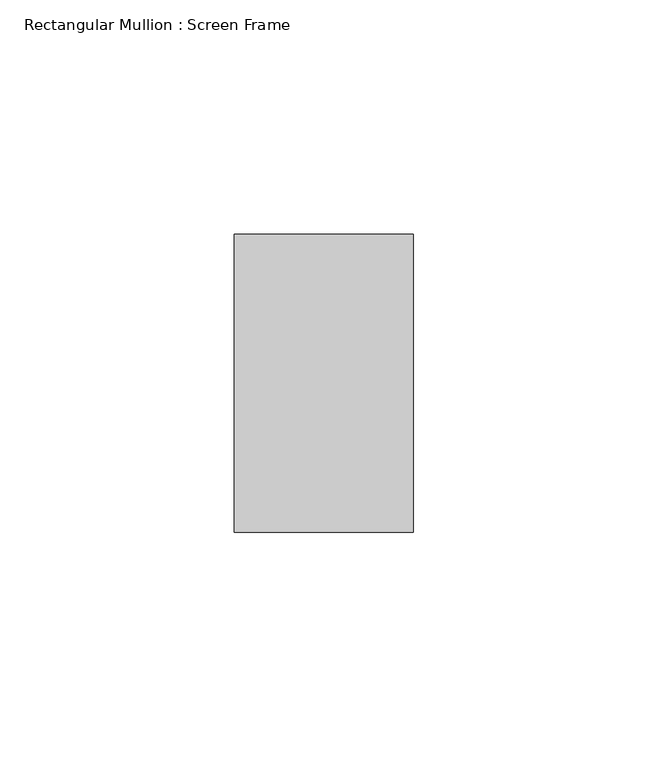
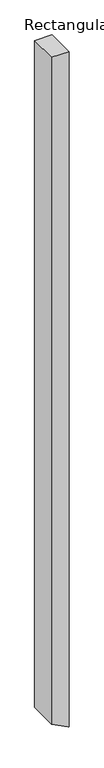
"""IFC4 building model written with IfcOpenShell, lengths in millimetres: member geometry, Rectangular Mullion : Screen Frame."""

from ifc_helpers import new_model, si_unit, frame, origin, place, context, project, spatial, polyline, outline, extrude, source, transform, mapped, element, save


def rectangular_mullion_screen_frame_e75fa713(model_context):
    return source(origin(), model_context, "Body", "SweptSolid", [
        extrude(outline(polyline([(0.0, 19.05), (0.0, -19.05), (-1537.4389604, -19.05), (-1555.898212, 17.2644466), (-1556.8058392, 19.05), (0.0, 19.05)])), frame((0.0, -31.75, 0.0), z_axis=(0.0, 1.0, 0.0), x_axis=(0.0, 0.0, 1.0)), (0.0, 0.0, 1.0), 63.5),
    ])


if __name__ == "__main__":
    model = new_model("IFC4")
    model_context = context("Model", 3, world=origin())
    ifc_project = project(units=[si_unit("LENGTHUNIT", "METRE", prefix="MILLI")], contexts=[model_context])
    site = spatial("IfcSite", under=ifc_project)
    building = spatial("IfcBuilding", under=site)
    placement = place(None, origin())
    rectangular_mullion_screen_frame_shape = rectangular_mullion_screen_frame_e75fa713(model_context)
    element("IfcMember", 1, ObjectType="Rectangular Mullion : Screen Frame", at=placement, inside=building, context=model_context, shape_type="MappedRepresentation", body=[
        mapped(rectangular_mullion_screen_frame_shape, transform((0.0, 0.0, 0.0), x_axis=(1.0, 0.0, 0.0), y_axis=(0.0, 1.0, 0.0), z_axis=(0.0, 0.0, 1.0))),
    ])
    save(model, "model.ifc")
